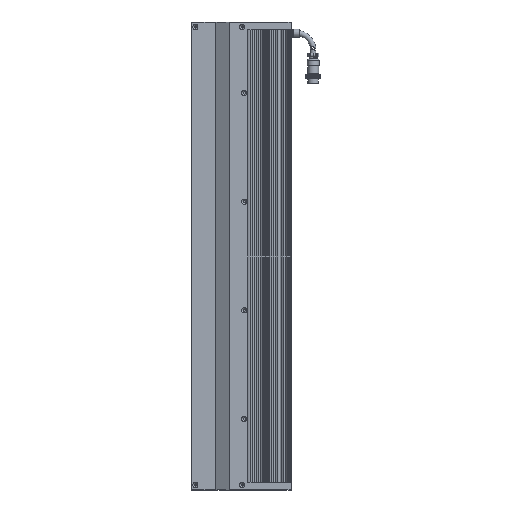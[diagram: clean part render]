
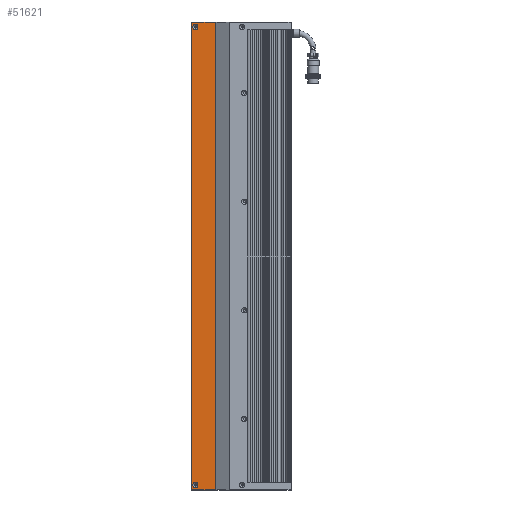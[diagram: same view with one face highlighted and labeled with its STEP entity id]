
A CAD part, left-side view. The second image highlights one B-rep face of the part: STEP entity #51621.
In plain terms, the highlighted planar face has unit normal (-1, 0, 0).
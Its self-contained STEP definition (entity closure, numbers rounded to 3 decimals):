
#438 = VECTOR ( 'NONE', #34857, 1000. ) ;
#515 = VECTOR ( 'NONE', #29680, 1000. ) ;
#2044 = LINE ( 'NONE', #65446, #515 ) ;
#4066 = EDGE_LOOP ( 'NONE', ( #107499 ) ) ;
#4431 = CARTESIAN_POINT ( 'NONE',  ( -15.462, 21.439, 679. ) ) ;
#7668 = DIRECTION ( 'NONE',  ( 1., 0., 0. ) ) ;
#11121 = EDGE_LOOP ( 'NONE', ( #12647 ) ) ;
#12647 = ORIENTED_EDGE ( 'NONE', *, *, #94906, .F. ) ;
#15353 = ORIENTED_EDGE ( 'NONE', *, *, #45296, .F. ) ;
#19485 = AXIS2_PLACEMENT_3D ( 'NONE', #104315, #7668, #94490 ) ;
#19548 = EDGE_LOOP ( 'NONE', ( #89555, #15353, #47877, #84595 ) ) ;
#20165 = FACE_OUTER_BOUND ( 'NONE', #19548, .T. ) ;
#21003 = CIRCLE ( 'NONE', #124375, 3.15 ) ;
#24942 = DIRECTION ( 'NONE',  ( -1., 0., 0. ) ) ;
#25749 = CARTESIAN_POINT ( 'NONE',  ( -15.462, -6.987, 120. ) ) ;
#26831 = VECTOR ( 'NONE', #102290, 1000. ) ;
#29680 = DIRECTION ( 'NONE',  ( 0., 0., 1. ) ) ;
#34195 = CARTESIAN_POINT ( 'NONE',  ( -15.462, -7.561, 679. ) ) ;
#34857 = DIRECTION ( 'NONE',  ( 0., 0., -1. ) ) ;
#38477 = LINE ( 'NONE', #112277, #438 ) ;
#39537 = CARTESIAN_POINT ( 'NONE',  ( -15.462, 16.939, 128.65 ) ) ;
#44546 = FACE_BOUND ( 'NONE', #4066, .T. ) ;
#45296 = EDGE_CURVE ( 'NONE', #59637, #70865, #112208, .T. ) ;
#47877 = ORIENTED_EDGE ( 'NONE', *, *, #82305, .F. ) ;
#48164 = DIRECTION ( 'NONE',  ( -1., 0., 0. ) ) ;
#51621 = ADVANCED_FACE ( 'NONE', ( #70445, #44546, #20165 ), #64298, .F. ) ;
#56827 = CARTESIAN_POINT ( 'NONE',  ( -15.462, 21.439, 120. ) ) ;
#57955 = DIRECTION ( 'NONE',  ( 0., 0., 1. ) ) ;
#59560 = VERTEX_POINT ( 'NONE', #4431 ) ;
#59637 = VERTEX_POINT ( 'NONE', #25749 ) ;
#64298 = PLANE ( 'NONE',  #19485 ) ;
#65446 = CARTESIAN_POINT ( 'NONE',  ( -15.462, 21.439, 677.5 ) ) ;
#68583 = CARTESIAN_POINT ( 'NONE',  ( -15.462, -6.987, 679. ) ) ;
#70445 = FACE_BOUND ( 'NONE', #11121, .T. ) ;
#70865 = VERTEX_POINT ( 'NONE', #56827 ) ;
#72966 = CIRCLE ( 'NONE', #116125, 3.15 ) ;
#77239 = EDGE_CURVE ( 'NONE', #59560, #81552, #101372, .T. ) ;
#79477 = CARTESIAN_POINT ( 'NONE',  ( -15.462, 16.939, 676.65 ) ) ;
#81552 = VERTEX_POINT ( 'NONE', #68583 ) ;
#81569 = DIRECTION ( 'NONE',  ( 0., 1., 0. ) ) ;
#82305 = EDGE_CURVE ( 'NONE', #81552, #59637, #38477, .T. ) ;
#83691 = DIRECTION ( 'NONE',  ( 0., 0., 1. ) ) ;
#84595 = ORIENTED_EDGE ( 'NONE', *, *, #77239, .F. ) ;
#86393 = VECTOR ( 'NONE', #81569, 1000. ) ;
#89555 = ORIENTED_EDGE ( 'NONE', *, *, #93202, .F. ) ;
#90487 = CARTESIAN_POINT ( 'NONE',  ( -15.462, -7.561, 120. ) ) ;
#93202 = EDGE_CURVE ( 'NONE', #70865, #59560, #2044, .T. ) ;
#94490 = DIRECTION ( 'NONE',  ( 0., 0., -1. ) ) ;
#94906 = EDGE_CURVE ( 'NONE', #108102, #108102, #72966, .T. ) ;
#101372 = LINE ( 'NONE', #34195, #26831 ) ;
#102290 = DIRECTION ( 'NONE',  ( 0., -1., 0. ) ) ;
#104315 = CARTESIAN_POINT ( 'NONE',  ( -15.462, -7.561, 677.5 ) ) ;
#107499 = ORIENTED_EDGE ( 'NONE', *, *, #111703, .F. ) ;
#108102 = VERTEX_POINT ( 'NONE', #39537 ) ;
#111703 = EDGE_CURVE ( 'NONE', #114189, #114189, #21003, .T. ) ;
#112208 = LINE ( 'NONE', #90487, #86393 ) ;
#112277 = CARTESIAN_POINT ( 'NONE',  ( -15.462, -6.987, 677.5 ) ) ;
#113039 = CARTESIAN_POINT ( 'NONE',  ( -15.462, 16.939, 125.5 ) ) ;
#114189 = VERTEX_POINT ( 'NONE', #79477 ) ;
#115820 = CARTESIAN_POINT ( 'NONE',  ( -15.462, 16.939, 673.5 ) ) ;
#116125 = AXIS2_PLACEMENT_3D ( 'NONE', #113039, #24942, #83691 ) ;
#124375 = AXIS2_PLACEMENT_3D ( 'NONE', #115820, #48164, #57955 ) ;
